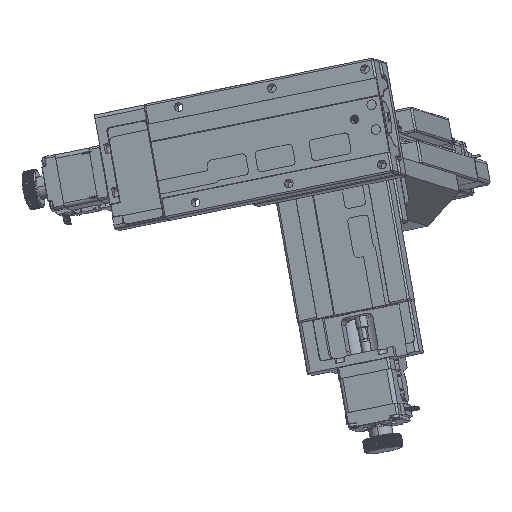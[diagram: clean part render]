
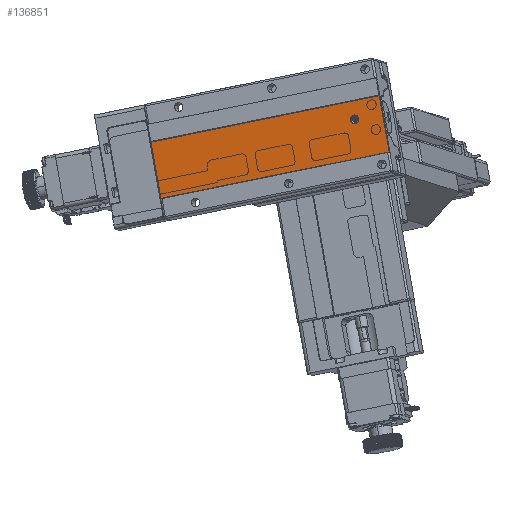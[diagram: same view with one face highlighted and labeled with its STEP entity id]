
A CAD part, front view. The second image highlights one B-rep face of the part: STEP entity #136851.
In plain terms, the highlighted planar face has unit normal (-0.236, -0.969, 0.074).
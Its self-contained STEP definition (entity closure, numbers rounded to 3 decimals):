
#756 = EDGE_CURVE ( 'NONE', #125672, #47497, #66772, .T. ) ;
#3233 = CARTESIAN_POINT ( 'NONE',  ( 65.478, -31.672, 42.199 ) ) ;
#3497 = DIRECTION ( 'NONE',  ( 0.236, 0.969, -0.074 ) ) ;
#8196 = CARTESIAN_POINT ( 'NONE',  ( 52.788, -29.523, 29.89 ) ) ;
#9118 = EDGE_CURVE ( 'NONE', #83762, #73841, #121415, .T. ) ;
#9692 = AXIS2_PLACEMENT_3D ( 'NONE', #8196, #86579, #19519 ) ;
#12806 = ORIENTED_EDGE ( 'NONE', *, *, #19326, .T. ) ;
#14299 = PLANE ( 'NONE',  #14973 ) ;
#14973 = AXIS2_PLACEMENT_3D ( 'NONE', #48072, #3497, #81878 ) ;
#19326 = EDGE_CURVE ( 'NONE', #47497, #62282, #110633, .T. ) ;
#19519 = DIRECTION ( 'NONE',  ( -0.173, 0.116, 0.978 ) ) ;
#20743 = CARTESIAN_POINT ( 'NONE',  ( 70.584, -35.118, 13.247 ) ) ;
#23138 = EDGE_LOOP ( 'NONE', ( #12806, #55977, #109240, #54637 ) ) ;
#24774 = VECTOR ( 'NONE', #92511, 1000. ) ;
#25462 = CARTESIAN_POINT ( 'NONE',  ( -46.672, -8.423, -10.612 ) ) ;
#32846 = DIRECTION ( 'NONE',  ( -0.173, 0.116, 0.978 ) ) ;
#36865 = FACE_BOUND ( 'NONE', #64015, .T. ) ;
#47497 = VERTEX_POINT ( 'NONE', #25462 ) ;
#48072 = CARTESIAN_POINT ( 'NONE',  ( -46.672, -8.423, -10.612 ) ) ;
#53128 = CARTESIAN_POINT ( 'NONE',  ( -51.778, -4.977, 18.34 ) ) ;
#54637 = ORIENTED_EDGE ( 'NONE', *, *, #756, .T. ) ;
#55977 = ORIENTED_EDGE ( 'NONE', *, *, #73623, .T. ) ;
#58803 = CARTESIAN_POINT ( 'NONE',  ( 70.584, -35.118, 13.247 ) ) ;
#62282 = VERTEX_POINT ( 'NONE', #20743 ) ;
#63171 = FACE_OUTER_BOUND ( 'NONE', #23138, .T. ) ;
#64015 = EDGE_LOOP ( 'NONE', ( #142179, #101288 ) ) ;
#66772 = LINE ( 'NONE', #112041, #92942 ) ;
#71524 = CARTESIAN_POINT ( 'NONE',  ( 65.478, -31.672, 42.199 ) ) ;
#73623 = EDGE_CURVE ( 'NONE', #62282, #95423, #103552, .T. ) ;
#73841 = VERTEX_POINT ( 'NONE', #127323 ) ;
#79338 = CARTESIAN_POINT ( 'NONE',  ( 53.184, -29.791, 27.64 ) ) ;
#80117 = DIRECTION ( 'NONE',  ( -0.236, -0.969, 0.074 ) ) ;
#81878 = DIRECTION ( 'NONE',  ( 0.173, -0.116, -0.978 ) ) ;
#83762 = VERTEX_POINT ( 'NONE', #79338 ) ;
#86579 = DIRECTION ( 'NONE',  ( -0.236, -0.969, 0.074 ) ) ;
#91365 = CARTESIAN_POINT ( 'NONE',  ( 52.788, -29.523, 29.89 ) ) ;
#92511 = DIRECTION ( 'NONE',  ( 0.956, -0.218, 0.195 ) ) ;
#92942 = VECTOR ( 'NONE', #123312, 1000. ) ;
#94427 = DIRECTION ( 'NONE',  ( -0.956, 0.218, -0.195 ) ) ;
#95423 = VERTEX_POINT ( 'NONE', #3233 ) ;
#97986 = VECTOR ( 'NONE', #94427, 1000. ) ;
#99899 = CARTESIAN_POINT ( 'NONE',  ( 70.584, -35.118, 13.247 ) ) ;
#99995 = VECTOR ( 'NONE', #32846, 1000. ) ;
#100479 = CIRCLE ( 'NONE', #9692, 2.3 ) ;
#101288 = ORIENTED_EDGE ( 'NONE', *, *, #9118, .F. ) ;
#103552 = LINE ( 'NONE', #99899, #99995 ) ;
#103941 = EDGE_CURVE ( 'NONE', #73841, #83762, #100479, .T. ) ;
#109240 = ORIENTED_EDGE ( 'NONE', *, *, #120107, .T. ) ;
#110633 = LINE ( 'NONE', #58803, #24774 ) ;
#112041 = CARTESIAN_POINT ( 'NONE',  ( -46.672, -8.423, -10.612 ) ) ;
#120107 = EDGE_CURVE ( 'NONE', #95423, #125672, #127860, .T. ) ;
#121415 = CIRCLE ( 'NONE', #128451, 2.3 ) ;
#123085 = DIRECTION ( 'NONE',  ( -0.173, 0.116, 0.978 ) ) ;
#123312 = DIRECTION ( 'NONE',  ( 0.173, -0.116, -0.978 ) ) ;
#125672 = VERTEX_POINT ( 'NONE', #53128 ) ;
#127323 = CARTESIAN_POINT ( 'NONE',  ( 52.391, -29.255, 32.139 ) ) ;
#127860 = LINE ( 'NONE', #71524, #97986 ) ;
#128451 = AXIS2_PLACEMENT_3D ( 'NONE', #91365, #80117, #123085 ) ;
#136851 = ADVANCED_FACE ( 'NONE', ( #36865, #63171 ), #14299, .F. ) ;
#142179 = ORIENTED_EDGE ( 'NONE', *, *, #103941, .F. ) ;
